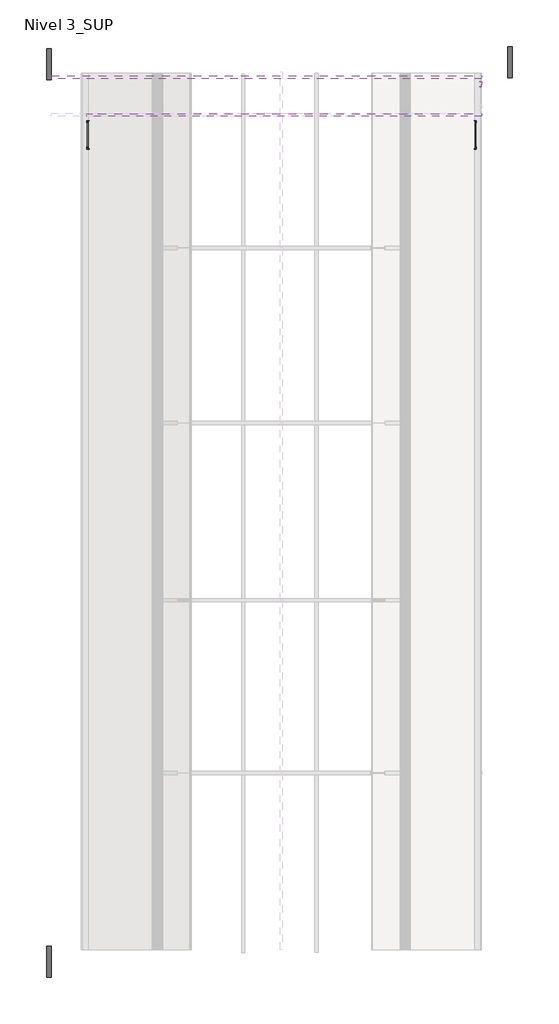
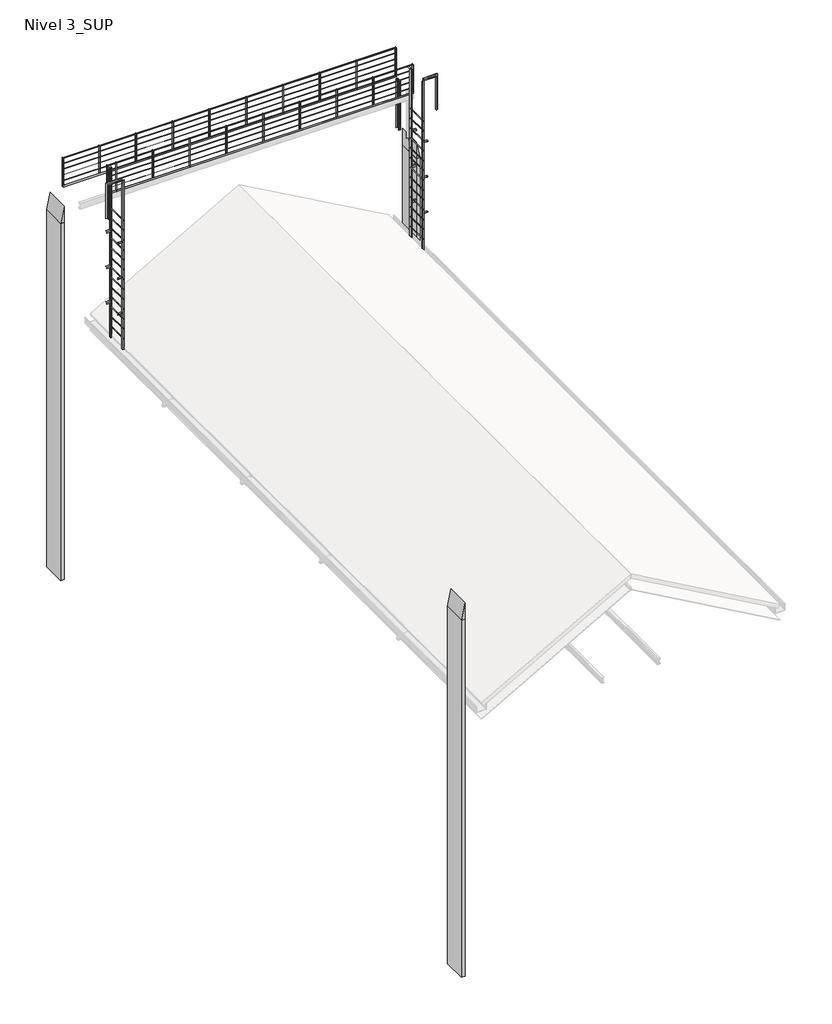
# One storey, part 10 of 10: 7 proxies, 1 column.
"""IFC4 building model written with IfcOpenShell, lengths in millimetres."""

from ifc_helpers import new_model, si_unit, frame, origin, place, context, project, spatial, polyline, circle_curve, transform, mapped, element, save
from ifc_brep_helpers import plane_surface, cylinder_surface, revolved_surface, advanced_brep
from components import generic_models_729d2b99, generic_models_3e9eeec1, tipo_1_9bd7dcbe, tipo_1_766e241a, tipo_1_08dbf436, tipo_1_852b0a03

model = new_model("IFC4")

# Units and contexts
model_context = context("Model", 3, world=origin())
ifc_project = project(units=[si_unit("LENGTHUNIT", "METRE", prefix="MILLI")], contexts=[model_context])

# Site, building, storey
site = spatial("IfcSite", under=ifc_project)
building = spatial("IfcBuilding", under=site)
storey = spatial("IfcBuildingStorey", under=building, Name="Nivel 3_SUP", Elevation=13230.0)

# Proxies
placement = place(None, origin())
generic_models_shape = generic_models_729d2b99(model_context)
element("IfcBuildingElementProxy", 1, Name="ARQ-BAR- Pasarela cubierta : ARQ-BAR- Pasarela cubierta", ObjectType="ARQ-BAR- Pasarela cubierta : ARQ-BAR- Pasarela cubierta", at=placement, inside=storey, context=model_context, shape_type="MappedRepresentation", body=[
    mapped(generic_models_shape, transform((5354.5512027, 13629.1072273, 17860.0), x_axis=(1.0, 0.0, 0.0), y_axis=(0.0, 1.0, 0.0), z_axis=(0.0, 0.0, 1.0))),
])
generic_models_2_shape = generic_models_3e9eeec1(model_context)
element("IfcBuildingElementProxy", 2, Name="ARQ-BAR- Pasarela cubierta 2 : ARQ-BAR- Pasarela cubierta 2", ObjectType="ARQ-BAR- Pasarela cubierta 2 : ARQ-BAR- Pasarela cubierta 2", at=placement, inside=storey, context=model_context, shape_type="MappedRepresentation", body=[
    mapped(generic_models_2_shape, transform((5354.2897792, 12785.7072273, 17860.0), x_axis=(1.0, 0.0, 0.0), y_axis=(0.0, 1.0, 0.0), z_axis=(0.0, 0.0, 1.0))),
])
tipo_1_shape = tipo_1_9bd7dcbe(model_context)
element("IfcBuildingElementProxy", 3, Name="ARQ-MU-EXT-Lad : Tipo 1", ObjectType="ARQ-MU-EXT-Lad : Tipo 1", at=placement, inside=storey, context=model_context, shape_type="MappedRepresentation", body=[
    mapped(tipo_1_shape, transform((5694.2897792, 13822.9182598, 16800.0), x_axis=(0.0, 1.0, 0.0), y_axis=(-1.0, 0.0, 0.0), z_axis=(0.0, 0.0, 1.0))),
])
element("IfcBuildingElementProxy", 4, Name="ARQ-MU-EXT-Lad : Tipo 1", ObjectType="ARQ-MU-EXT-Lad : Tipo 1", at=placement, inside=storey, context=model_context, shape_type="MappedRepresentation", body=[
    mapped(tipo_1_shape, transform((5694.2897792, -6201.4134865, 16850.0), x_axis=(0.0, 1.0, 0.0), y_axis=(-1.0, 0.0, 0.0), z_axis=(0.0, 0.0, 1.0))),
])
tipo_1_2_shape = tipo_1_766e241a(model_context)
element("IfcBuildingElementProxy", 5, Name="ARQ-MU-EXT-Lad : Tipo 1", ObjectType="ARQ-MU-EXT-Lad : Tipo 1", at=placement, inside=storey, context=model_context, shape_type="MappedRepresentation", body=[
    mapped(tipo_1_2_shape, transform((15254.8126262, 14118.6072273, 15150.0), x_axis=(0.0, -1.0, 0.0), y_axis=(1.0, 0.0, 0.0), z_axis=(0.0, 0.0, 1.0))),
])
tipo_1_3_shape = tipo_1_08dbf436(model_context)
element("IfcBuildingElementProxy", 6, Name="ARQ-ESC-EX-Ace-H3 : Tipo 1", ObjectType="ARQ-ESC-EX-Ace-H3 : Tipo 1", at=placement, inside=storey, context=model_context, shape_type="MappedRepresentation", body=[
    mapped(tipo_1_3_shape, transform((15254.8126262, 12497.7072273, 13580.0), x_axis=(0.0, -1.0, 0.0), y_axis=(1.0, 0.0, 0.0), z_axis=(0.0, 0.0, 1.0))),
])
tipo_1_4_shape = tipo_1_852b0a03(model_context)
element("IfcBuildingElementProxy", 7, Name="ARQ-ESC-EX-Ace-H3 : Tipo 1", ObjectType="ARQ-ESC-EX-Ace-H3 : Tipo 1", at=placement, inside=storey, context=model_context, shape_type="MappedRepresentation", body=[
    mapped(tipo_1_4_shape, transform((5694.2897792, 12497.7072273, 13580.0), x_axis=(0.0, -1.0, 0.0), y_axis=(1.0, 0.0, 0.0), z_axis=(0.0, 0.0, 1.0))),
])

# Column
element("IfcColumn", 8, ObjectType="UPE - Canales de ala paralela - Pilar : UPE 120", at=placement, inside=storey, context=model_context, shape_type="AdvancedBrep", body=[
    advanced_brep(
    [(14964.8126262, 13443.1072273, 16360.0), (14909.8126262, 13443.1072273, 16360.0), (14909.8126262, 13449.1072273, 16360.0), (14947.8126262, 13449.1072273, 16360.0), (14959.8126262, 13461.1072273, 16360.0), (14959.8126262, 13545.1072273, 16360.0), (14947.8126262, 13557.1072273, 16360.0), (14909.8126262, 13557.1072273, 16360.0), (14909.8126262, 13563.1072273, 16360.0), (14964.8126262, 13563.1072273, 16360.0), (14909.8126262, 13443.1072273, 17860.0), (14909.8126262, 13449.1072273, 17860.0), (14909.8126262, 13557.1072273, 17860.0), (14909.8126262, 13563.1072273, 17860.0), (14919.8126262, 13443.1072273, 17860.0), (14919.8126262, 13449.1072273, 17860.0), (14964.8126262, 13443.1072273, 17780.0), (14919.8126262, 13443.1072273, 17780.0), (14919.8126262, 13449.1072273, 17780.0), (14947.8126262, 13449.1072273, 17780.0), (14959.8126262, 13461.1072273, 17780.0), (14959.8126262, 13545.1072273, 17780.0), (14947.8126262, 13557.1072273, 17780.0), (14919.8126262, 13557.1072273, 17780.0), (14919.8126262, 13557.1072273, 17860.0), (14919.8126262, 13563.1072273, 17860.0), (14919.8126262, 13563.1072273, 17780.0), (14964.8126262, 13563.1072273, 17780.0)],
    [
        (0, 1),
        (1, 2),
        (2, 3),
        (3, 4, circle_curve(frame((14947.8126262, 13461.1072273, 16360.0), z_axis=(0.0, 0.0, 1.0), x_axis=(-1.0, 0.0, 0.0)), 12.0)),
        (4, 5),
        (5, 6, circle_curve(frame((14947.8126262, 13545.1072273, 16360.0), z_axis=(0.0, 0.0, 1.0), x_axis=(-1.0, 0.0, 0.0)), 12.0)),
        (6, 7),
        (7, 8),
        (8, 9),
        (9, 0),
        (1, 10),
        (10, 11),
        (11, 2),
        (7, 12),
        (12, 13),
        (13, 8),
        (10, 14),
        (14, 15),
        (15, 11),
        (0, 16),
        (16, 17),
        (17, 14),
        (15, 18),
        (18, 19),
        (19, 3),
        (19, 20, circle_curve(frame((14947.8126262, 13461.1072273, 17780.0), z_axis=(0.0, 0.0, 1.0), x_axis=(-1.0, 0.0, 0.0)), 12.0)),
        (20, 4),
        (20, 21),
        (21, 5),
        (21, 22, circle_curve(frame((14947.8126262, 13545.1072273, 17780.0), z_axis=(0.0, 0.0, 1.0), x_axis=(-1.0, 0.0, 0.0)), 12.0)),
        (22, 6),
        (22, 23),
        (23, 24),
        (24, 12),
        (13, 25),
        (25, 26),
        (26, 27),
        (27, 9),
        (27, 16),
        (24, 25),
        (18, 17),
        (26, 23),
    ],
    [
        plane_surface(frame((14964.8126262, 13443.1072273, 16360.0), z_axis=(0.0, 0.0, -1.0), x_axis=(0.0, -1.0, 0.0))),
        plane_surface(frame((14909.8126262, 13449.1072273, 17860.0), z_axis=(-1.0, 0.0, 0.0), x_axis=(0.0, 0.0, -1.0))),
        plane_surface(frame((14909.8126262, 13563.1072273, 17860.0), z_axis=(-1.0, 0.0, 0.0), x_axis=(0.0, 0.0, -1.0))),
        plane_surface(frame((14964.8126262, 13443.1072273, 17860.0), z_axis=(0.0, 0.0, 1.0), x_axis=(0.0, 1.0, 0.0))),
        plane_surface(frame((14909.8126262, 13443.1072273, 17860.0), z_axis=(0.0, -1.0, 0.0), x_axis=(0.0, 0.0, -1.0))),
        plane_surface(frame((14947.8126262, 13449.1072273, 17860.0), z_axis=(0.0, 1.0, 0.0), x_axis=(0.0, 0.0, -1.0))),
        revolved_surface(polyline([(14935.8126262, 13461.1072273, 16360.0), (14935.8126262, 13461.1072273, 17780.0)]), (14947.8126262, 13461.1072273, 16360.0), (0.0, 0.0, -1.0)),
        plane_surface(frame((14959.8126262, 13545.1072273, 17860.0), z_axis=(-1.0, 0.0, 0.0), x_axis=(0.0, 0.0, -1.0))),
        revolved_surface(polyline([(14935.8126262, 13545.1072273, 16360.0), (14935.8126262, 13545.1072273, 17780.0)]), (14947.8126262, 13545.1072273, 16360.0), (0.0, 0.0, -1.0)),
        plane_surface(frame((14909.8126262, 13557.1072273, 17860.0), z_axis=(0.0, -1.0, 0.0), x_axis=(0.0, 0.0, -1.0))),
        plane_surface(frame((14964.8126262, 13563.1072273, 17860.0), z_axis=(0.0, 1.0, 0.0), x_axis=(0.0, 0.0, -1.0))),
        plane_surface(frame((14964.8126262, 13443.1072273, 17860.0), z_axis=(1.0, 0.0, 0.0), x_axis=(0.0, 0.0, -1.0))),
        plane_surface(frame((14964.8126262, 13680.4072273, 17780.0), z_axis=(0.0, 0.0, 1.0), x_axis=(0.0, -1.0, 0.0))),
        plane_surface(frame((14919.8126262, 13680.4072273, 17780.0), z_axis=(1.0, 0.0, 0.0), x_axis=(0.0, -1.0, 0.0))),
    ],
    [
        (0, [[1, 2, 3, 4, 5, 6, 7, 8, 9, 10]]),
        (1, [[-2, 11, 12, 13]]),
        (2, [[-8, 14, 15, 16]]),
        (3, [[-12, 17, 18, 19]]),
        (4, [[-1, 20, 21, 22, -17, -11]]),
        (5, [[-3, -13, -19, 23, 24, 25]]),
        (6, [[-4, -25, 26, 27]]),
        (7, [[-5, -27, 28, 29]]),
        (8, [[-6, -29, 30, 31]]),
        (9, [[-7, -31, 32, 33, 34, -14]]),
        (10, [[-9, -16, 35, 36, 37, 38]]),
        (11, [[-10, -38, 39, -20]]),
        (3, [[-15, -34, 40, -35]]),
        (12, [[41, -21, -39, -37, 42, -32, -30, -28, -26, -24]]),
        (13, [[-42, -36, -40, -33]]),
        (13, [[-41, -23, -18, -22]]),
    ],
),
    advanced_brep(
    [(14964.8126262, 13443.1072273, 17788.0), (14964.8126262, 13443.1072273, 17852.0), (14937.8126262, 13443.1072273, 17852.0), (14924.8126262, 13443.1072273, 17839.0), (14924.8126262, 13443.1072273, 17801.0), (14937.8126262, 13443.1072273, 17788.0), (14947.8126262, 13449.1072273, 17852.0), (14947.8126262, 13449.1072273, 17788.0), (14937.8126262, 13449.1072273, 17788.0), (14924.8126262, 13449.1072273, 17801.0), (14924.8126262, 13449.1072273, 17839.0), (14937.8126262, 13449.1072273, 17852.0), (14959.8126262, 13461.1072273, 17852.0), (14959.8126262, 13461.1072273, 17788.0), (14959.8126262, 13545.1072273, 17852.0), (14959.8126262, 13545.1072273, 17788.0), (14947.8126262, 13557.1072273, 17852.0), (14947.8126262, 13557.1072273, 17788.0), (14937.8126262, 13557.1072273, 17852.0), (14924.8126262, 13557.1072273, 17839.0), (14924.8126262, 13557.1072273, 17801.0), (14937.8126262, 13557.1072273, 17788.0), (14964.8126262, 13563.1072273, 17852.0), (14964.8126262, 13563.1072273, 17788.0), (14937.8126262, 13563.1072273, 17788.0), (14924.8126262, 13563.1072273, 17801.0), (14924.8126262, 13563.1072273, 17839.0), (14937.8126262, 13563.1072273, 17852.0)],
    [
        (0, 1),
        (1, 2),
        (2, 3, circle_curve(frame((14937.8126262, 13443.1072273, 17839.0), z_axis=(0.0, -1.0, 0.0), x_axis=(-1.0, 0.0, 0.0)), 13.0)),
        (3, 4),
        (4, 5, circle_curve(frame((14937.8126262, 13443.1072273, 17801.0), z_axis=(0.0, -1.0, 0.0), x_axis=(0.0, 0.0, -1.0)), 13.0)),
        (5, 0),
        (6, 7),
        (7, 8),
        (8, 9, circle_curve(frame((14937.8126262, 13449.1072273, 17801.0), z_axis=(0.0, 1.0, 0.0), x_axis=(0.0, 0.0, -1.0)), 13.0)),
        (9, 10),
        (10, 11, circle_curve(frame((14937.8126262, 13449.1072273, 17839.0), z_axis=(0.0, 1.0, 0.0), x_axis=(-1.0, 0.0, 0.0)), 13.0)),
        (11, 6),
        (6, 12, circle_curve(frame((14947.8126262, 13461.1072273, 17852.0), z_axis=(0.0, 0.0, 1.0), x_axis=(-1.0, 0.0, 0.0)), 12.0)),
        (12, 13),
        (13, 7, circle_curve(frame((14947.8126262, 13461.1072273, 17788.0), z_axis=(0.0, 0.0, -1.0), x_axis=(-1.0, 0.0, 0.0)), 12.0)),
        (12, 14),
        (14, 15),
        (15, 13),
        (14, 16, circle_curve(frame((14947.8126262, 13545.1072273, 17852.0), z_axis=(0.0, 0.0, 1.0), x_axis=(-1.0, 0.0, 0.0)), 12.0)),
        (16, 17),
        (17, 15, circle_curve(frame((14947.8126262, 13545.1072273, 17788.0), z_axis=(0.0, 0.0, -1.0), x_axis=(-1.0, 0.0, 0.0)), 12.0)),
        (16, 18),
        (18, 19, circle_curve(frame((14937.8126262, 13557.1072273, 17839.0), z_axis=(0.0, -1.0, 0.0), x_axis=(-1.0, 0.0, 0.0)), 13.0)),
        (19, 20),
        (20, 21, circle_curve(frame((14937.8126262, 13557.1072273, 17801.0), z_axis=(0.0, -1.0, 0.0), x_axis=(0.0, 0.0, -1.0)), 13.0)),
        (21, 17),
        (22, 23),
        (23, 24),
        (24, 25, circle_curve(frame((14937.8126262, 13563.1072273, 17801.0), z_axis=(0.0, 1.0, 0.0), x_axis=(0.0, 0.0, -1.0)), 13.0)),
        (25, 26),
        (26, 27, circle_curve(frame((14937.8126262, 13563.1072273, 17839.0), z_axis=(0.0, 1.0, 0.0), x_axis=(-1.0, 0.0, 0.0)), 13.0)),
        (27, 22),
        (22, 1),
        (0, 23),
        (11, 2),
        (27, 18),
        (26, 19),
        (25, 20),
        (24, 21),
        (5, 8),
        (10, 3),
        (9, 4),
    ],
    [
        plane_surface(frame((14909.8126262, 13443.1072273, 17860.0), z_axis=(0.0, -1.0, 0.0), x_axis=(0.0, 0.0, -1.0))),
        plane_surface(frame((14947.8126262, 13449.1072273, 17860.0), z_axis=(0.0, 1.0, 0.0), x_axis=(0.0, 0.0, -1.0))),
        revolved_surface(polyline([(14935.8126262, 13461.1072273, 17788.0), (14935.8126262, 13461.1072273, 17852.0)]), (14947.8126262, 13461.1072273, 16360.0), (0.0, 0.0, -1.0)),
        plane_surface(frame((14959.8126262, 13545.1072273, 17860.0), z_axis=(-1.0, 0.0, 0.0), x_axis=(0.0, 0.0, -1.0))),
        revolved_surface(polyline([(14935.8126262, 13545.1072273, 17788.0), (14935.8126262, 13545.1072273, 17852.0)]), (14947.8126262, 13545.1072273, 16360.0), (0.0, 0.0, -1.0)),
        plane_surface(frame((14909.8126262, 13557.1072273, 17860.0), z_axis=(0.0, -1.0, 0.0), x_axis=(0.0, 0.0, -1.0))),
        plane_surface(frame((14964.8126262, 13563.1072273, 17860.0), z_axis=(0.0, 1.0, 0.0), x_axis=(0.0, 0.0, -1.0))),
        plane_surface(frame((14964.8126262, 13443.1072273, 17860.0), z_axis=(1.0, 0.0, 0.0), x_axis=(0.0, 0.0, -1.0))),
        plane_surface(frame((14964.8126262, 13680.4072273, 17852.0), z_axis=(0.0, 0.0, 1.0), x_axis=(0.0, -1.0, 0.0))),
        cylinder_surface(frame((14937.8126262, 13235.9072273, 17839.0), z_axis=(0.0, -1.0, 0.0), x_axis=(-1.0, 0.0, 0.0)), 13.0),
        plane_surface(frame((14924.8126262, 13680.4072273, 17839.0), z_axis=(-1.0, 0.0, 0.0), x_axis=(0.0, -1.0, 0.0))),
        cylinder_surface(frame((14937.8126262, 13235.9072273, 17801.0), z_axis=(0.0, -1.0, 0.0), x_axis=(0.0, 0.0, -1.0)), 13.0),
        plane_surface(frame((14937.8126262, 13680.4072273, 17788.0), z_axis=(0.0, 0.0, -1.0), x_axis=(0.0, -1.0, 0.0))),
    ],
    [
        (0, [[1, 2, 3, 4, 5, 6]]),
        (1, [[7, 8, 9, 10, 11, 12]]),
        (2, [[-7, 13, 14, 15]]),
        (3, [[-14, 16, 17, 18]]),
        (4, [[-17, 19, 20, 21]]),
        (5, [[-20, 22, 23, 24, 25, 26]]),
        (6, [[27, 28, 29, 30, 31, 32]]),
        (7, [[-27, 33, -1, 34]]),
        (8, [[35, -2, -33, -32, 36, -22, -19, -16, -13, -12]]),
        (9, [[-36, -31, 37, -23]]),
        (10, [[-37, -30, 38, -24]]),
        (11, [[-38, -29, 39, -25]]),
        (12, [[40, -8, -15, -18, -21, -26, -39, -28, -34, -6]]),
        (9, [[-35, -11, 41, -3]]),
        (10, [[-41, -10, 42, -4]]),
        (11, [[-42, -9, -40, -5]]),
    ],
),
])

save(model, "model.ifc")
